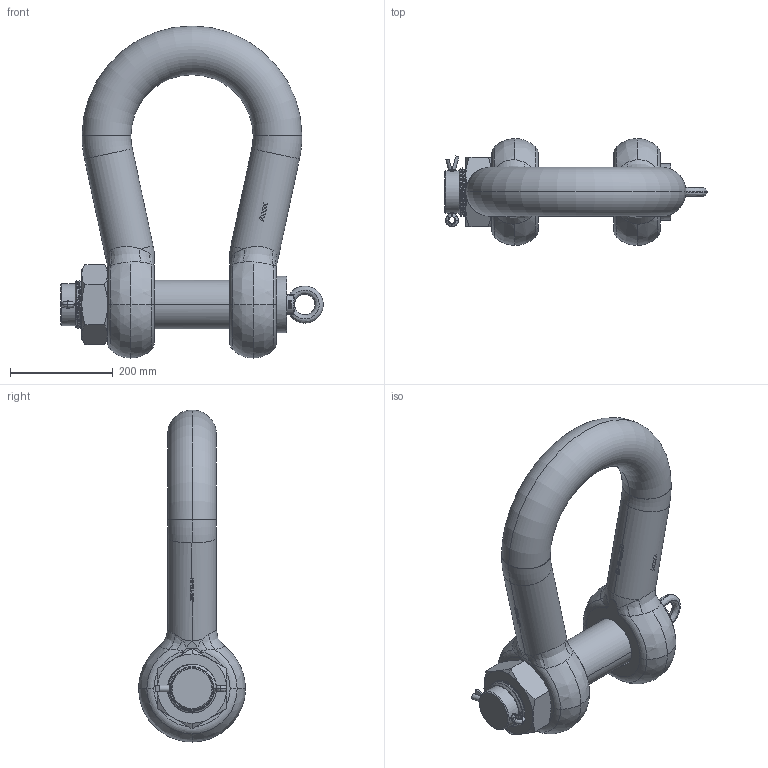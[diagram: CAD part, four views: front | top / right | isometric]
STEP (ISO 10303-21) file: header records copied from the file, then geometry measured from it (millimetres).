
FILE_DESCRIPTION(('.'),'2;1');
FILE_NAME('HDSUHM0150.step','.',('.'),('.'),'.','STEP AP214','.');
FILE_SCHEMA(('AUTOMOTIVE_DESIGN { 1 0 10303 214 1 1 1 1 }'));
Length unit declared in the file: millimetre
Products named in the file (6): HDSUHM0150; HDSUHM0150_1; HDSUHM0150_2; HDSUHM0150_3; DIN 580 M20 x 30; HDSUHM0150_4
Assembly tree (5 placements, depth 2):
  HDSUHM0150
    HDSUHM0150_1
    HDSUHM0150_2
    HDSUHM0150_3
    DIN 580 M20 x 30
    HDSUHM0150_4
Bounding box: 511 x 208 x 646.5 mm (x, y, z)
Volume: 14611426.9 mm3; surface area: 774836.6 mm2
Topology: 5 solids, 5 shells, 1253 faces, 4772 edges, 3553 vertices
Faces by surface type: bspline 468, plane 408, cylinder 315, torus 36, cone 26
Entity records: 83763 total; most frequent: CARTESIAN_POINT 49970, ORIENTED_EDGE 9538, EDGE_CURVE 4769, VERTEX_POINT 3553, B_SPLINE_CURVE_WITH_KNOTS 3438, DIRECTION 2478, EDGE_LOOP 1290, ADVANCED_FACE 1253
